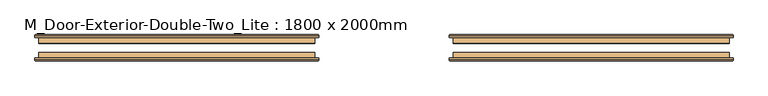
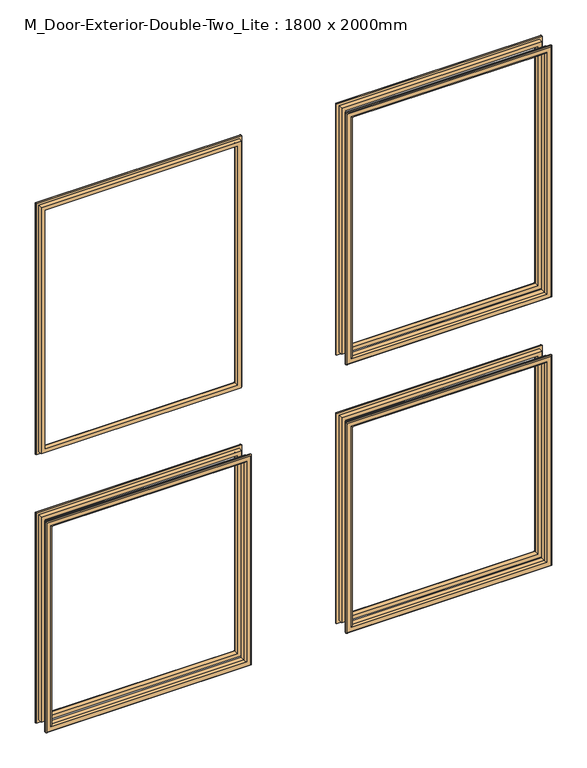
"""IFC4 building model written with IfcOpenShell, lengths in millimetres: door geometry, M_Door-Exterior-Double-Two_Lite : 1800 x 2000mm."""

from ifc_helpers import new_model, si_unit, frame, origin, place, context, project, spatial, ellipse_curve, source, transform, mapped, element, save
from ifc_brep_helpers import plane_surface, cylinder_surface, advanced_brep


def m_door_exterior_double_two_lite_1800_x_2000mm_29a14667(model_context):
    return source(origin(), model_context, "Body", "AdvancedBrep", [
        advanced_brep(
        [(-750.0, 68.85, 900.0), (-750.0, 81.35, 900.0), (-750.0, 81.35, 250.0), (-750.0, 68.85, 250.0), (-738.0, 82.35, 888.0), (-738.0, 68.85, 888.0), (-738.0, 68.85, 262.0), (-738.0, 82.35, 262.0), (-743.0, 87.35, 893.0), (-743.0, 87.35, 257.0), (-758.0, 85.35, 908.0), (-756.0, 87.35, 906.0), (-756.0, 87.35, 244.0), (-758.0, 85.35, 242.0), (-758.0, 81.35, 908.0), (-758.0, 81.35, 242.0), (-150.0, 81.35, 250.0), (-150.0, 68.85, 250.0), (-162.0, 68.85, 262.0), (-162.0, 82.35, 262.0), (-157.0, 87.35, 257.0), (-144.0, 87.35, 244.0), (-142.0, 85.35, 242.0), (-142.0, 81.35, 242.0), (-150.0, 81.35, 900.0), (-150.0, 68.85, 900.0), (-162.0, 68.85, 888.0), (-162.0, 82.35, 888.0), (-157.0, 87.35, 893.0), (-144.0, 87.35, 906.0), (-142.0, 85.35, 908.0), (-142.0, 81.35, 908.0)],
        [
            (0, 1),
            (1, 2),
            (2, 3),
            (3, 0),
            (4, 5),
            (5, 6),
            (6, 7),
            (7, 4),
            (8, 4, ellipse_curve(frame((-743.0, 82.35, 893.0), z_axis=(-0.7071067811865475, 0.0, -0.7071067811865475), x_axis=(-0.7071067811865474, 0.0, 0.7071067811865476)), 7.0710678, 5.0)),
            (7, 9, ellipse_curve(frame((-743.0, 82.35, 257.0), z_axis=(-0.7071067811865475, 0.0, 0.7071067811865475), x_axis=(0.7071067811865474, 0.0, 0.7071067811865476)), 7.0710678, 5.0)),
            (9, 8),
            (10, 11, ellipse_curve(frame((-756.0, 85.35, 906.0), z_axis=(-0.7071067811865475, 0.0, -0.7071067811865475), x_axis=(-0.7071067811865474, 0.0, 0.7071067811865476)), 2.8284271, 2.0)),
            (11, 12),
            (12, 13, ellipse_curve(frame((-756.0, 85.35, 244.0), z_axis=(-0.7071067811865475, 0.0, 0.7071067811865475), x_axis=(0.7071067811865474, 0.0, 0.7071067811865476)), 2.8284271, 2.0)),
            (13, 10),
            (14, 10),
            (13, 15),
            (15, 14),
            (2, 16),
            (16, 17),
            (17, 3),
            (6, 18),
            (18, 19),
            (19, 7),
            (19, 20, ellipse_curve(frame((-157.0, 82.35, 257.0), z_axis=(-0.7071067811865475, 0.0, -0.7071067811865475), x_axis=(-0.7071067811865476, 0.0, 0.7071067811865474)), 7.0710678, 5.0)),
            (20, 9),
            (12, 21),
            (21, 22, ellipse_curve(frame((-144.0, 85.35, 244.0), z_axis=(-0.7071067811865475, 0.0, -0.7071067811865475), x_axis=(-0.7071067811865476, 0.0, 0.7071067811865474)), 2.8284271, 2.0)),
            (22, 13),
            (22, 23),
            (23, 15),
            (16, 24),
            (24, 25),
            (25, 17),
            (18, 26),
            (26, 27),
            (27, 19),
            (27, 28, ellipse_curve(frame((-157.0, 82.35, 893.0), z_axis=(0.7071067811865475, 0.0, -0.7071067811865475), x_axis=(-0.7071067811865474, 0.0, -0.7071067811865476)), 7.0710678, 5.0)),
            (28, 20),
            (21, 29),
            (29, 30, ellipse_curve(frame((-144.0, 85.35, 906.0), z_axis=(0.7071067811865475, 0.0, -0.7071067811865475), x_axis=(-0.7071067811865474, 0.0, -0.7071067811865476)), 2.8284271, 2.0)),
            (30, 22),
            (30, 31),
            (31, 23),
            (31, 14),
            (1, 24),
            (0, 25),
            (5, 26),
            (4, 27),
            (8, 28),
            (11, 29),
            (10, 30),
        ],
        [
            plane_surface(frame((-750.0, 81.35, 900.0), z_axis=(-1.0, 0.0, 0.0), x_axis=(0.0, 0.0, -1.0))),
            plane_surface(frame((-738.0, 68.85, 888.0), z_axis=(1.0, 0.0, 0.0), x_axis=(0.0, 0.0, -1.0))),
            cylinder_surface(frame((-743.0, 82.35, 900.0), z_axis=(0.0, 0.0, 1.0), x_axis=(-1.0, 0.0, 0.0)), 5.0),
            cylinder_surface(frame((-756.0, 85.35, 900.0), z_axis=(0.0, 0.0, 1.0), x_axis=(-1.0, 0.0, 0.0)), 2.0),
            plane_surface(frame((-758.0, 85.35, 908.0), z_axis=(-1.0, 0.0, 0.0), x_axis=(0.0, 0.0, -1.0))),
            plane_surface(frame((-750.0, 81.35, 250.0), z_axis=(0.0, 0.0, -1.0), x_axis=(1.0, 0.0, 0.0))),
            plane_surface(frame((-738.0, 68.85, 262.0), z_axis=(0.0, 0.0, 1.0), x_axis=(1.0, 0.0, 0.0))),
            cylinder_surface(frame((-750.0, 82.35, 257.0), z_axis=(-1.0, 0.0, 0.0), x_axis=(0.0, 0.0, -1.0)), 5.0),
            cylinder_surface(frame((-750.0, 85.35, 244.0), z_axis=(-1.0, 0.0, 0.0), x_axis=(0.0, 0.0, -1.0)), 2.0),
            plane_surface(frame((-758.0, 85.35, 242.0), z_axis=(0.0, 0.0, -1.0), x_axis=(1.0, 0.0, 0.0))),
            plane_surface(frame((-150.0, 81.35, 250.0), z_axis=(1.0, 0.0, 0.0), x_axis=(0.0, 0.0, 1.0))),
            plane_surface(frame((-162.0, 68.85, 262.0), z_axis=(-1.0, 0.0, 0.0), x_axis=(0.0, 0.0, 1.0))),
            cylinder_surface(frame((-157.0, 82.35, 250.0), z_axis=(0.0, 0.0, -1.0), x_axis=(1.0, 0.0, 0.0)), 5.0),
            cylinder_surface(frame((-144.0, 85.35, 250.0), z_axis=(0.0, 0.0, -1.0), x_axis=(1.0, 0.0, 0.0)), 2.0),
            plane_surface(frame((-142.0, 85.35, 242.0), z_axis=(1.0, 0.0, 0.0), x_axis=(0.0, 0.0, 1.0))),
            plane_surface(frame((-142.0, 81.35, 908.0), z_axis=(0.0, -1.0, 0.0), x_axis=(-1.0, 0.0, 0.0))),
            plane_surface(frame((-150.0, 81.35, 900.0), z_axis=(0.0, 0.0, 1.0), x_axis=(-1.0, 0.0, 0.0))),
            plane_surface(frame((-150.0, 68.85, 900.0), z_axis=(0.0, -1.0, 0.0), x_axis=(-1.0, 0.0, 0.0))),
            plane_surface(frame((-162.0, 68.85, 888.0), z_axis=(0.0, 0.0, -1.0), x_axis=(-1.0, 0.0, 0.0))),
            cylinder_surface(frame((-150.0, 82.35, 893.0), z_axis=(1.0, 0.0, 0.0), x_axis=(0.0, 0.0, 1.0)), 5.0),
            plane_surface(frame((-157.0, 87.35, 893.0), z_axis=(0.0, 1.0, 0.0), x_axis=(-1.0, 0.0, 0.0))),
            cylinder_surface(frame((-150.0, 85.35, 906.0), z_axis=(1.0, 0.0, 0.0), x_axis=(0.0, 0.0, 1.0)), 2.0),
            plane_surface(frame((-142.0, 85.35, 908.0), z_axis=(0.0, 0.0, 1.0), x_axis=(-1.0, 0.0, 0.0))),
        ],
        [
            (0, [[1, 2, 3, 4]]),
            (1, [[5, 6, 7, 8]]),
            (2, [[9, -8, 10, 11]]),
            (3, [[12, 13, 14, 15]]),
            (4, [[16, -15, 17, 18]]),
            (5, [[-3, 19, 20, 21]]),
            (6, [[-7, 22, 23, 24]]),
            (7, [[-10, -24, 25, 26]]),
            (8, [[-14, 27, 28, 29]]),
            (9, [[-17, -29, 30, 31]]),
            (10, [[-20, 32, 33, 34]]),
            (11, [[-23, 35, 36, 37]]),
            (12, [[-25, -37, 38, 39]]),
            (13, [[-28, 40, 41, 42]]),
            (14, [[-30, -42, 43, 44]]),
            (15, [[-31, -44, 45, -18], [46, -32, -19, -2]]),
            (16, [[-33, -46, -1, 47]]),
            (17, [[-21, -34, -47, -4], [48, -35, -22, -6]]),
            (18, [[-36, -48, -5, 49]]),
            (19, [[-38, -49, -9, 50]]),
            (20, [[51, -40, -27, -13], [-26, -39, -50, -11]]),
            (21, [[-41, -51, -12, 52]]),
            (22, [[-43, -52, -16, -45]]),
        ],
    ),
        advanced_brep(
        [(150.0, 68.85, 900.0), (150.0, 81.35, 900.0), (150.0, 81.35, 250.0), (150.0, 68.85, 250.0), (162.0, 82.35, 888.0), (162.0, 68.85, 888.0), (162.0, 68.85, 262.0), (162.0, 82.35, 262.0), (157.0, 87.35, 893.0), (157.0, 87.35, 257.0), (142.0, 85.35, 908.0), (144.0, 87.35, 906.0), (144.0, 87.35, 244.0), (142.0, 85.35, 242.0), (142.0, 81.35, 908.0), (142.0, 81.35, 242.0), (750.0, 81.35, 250.0), (750.0, 68.85, 250.0), (738.0, 68.85, 262.0), (738.0, 82.35, 262.0), (743.0, 87.35, 257.0), (756.0, 87.35, 244.0), (758.0, 85.35, 242.0), (758.0, 81.35, 242.0), (750.0, 81.35, 900.0), (750.0, 68.85, 900.0), (738.0, 68.85, 888.0), (738.0, 82.35, 888.0), (743.0, 87.35, 893.0), (756.0, 87.35, 906.0), (758.0, 85.35, 908.0), (758.0, 81.35, 908.0)],
        [
            (0, 1),
            (1, 2),
            (2, 3),
            (3, 0),
            (4, 5),
            (5, 6),
            (6, 7),
            (7, 4),
            (8, 4, ellipse_curve(frame((157.0, 82.35, 893.0), z_axis=(-0.7071067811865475, 0.0, -0.7071067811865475), x_axis=(-0.7071067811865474, 0.0, 0.7071067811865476)), 7.0710678, 5.0)),
            (7, 9, ellipse_curve(frame((157.0, 82.35, 257.0), z_axis=(-0.7071067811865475, 0.0, 0.7071067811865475), x_axis=(0.7071067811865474, 0.0, 0.7071067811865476)), 7.0710678, 5.0)),
            (9, 8),
            (10, 11, ellipse_curve(frame((144.0, 85.35, 906.0), z_axis=(-0.7071067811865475, 0.0, -0.7071067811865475), x_axis=(-0.7071067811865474, 0.0, 0.7071067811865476)), 2.8284271, 2.0)),
            (11, 12),
            (12, 13, ellipse_curve(frame((144.0, 85.35, 244.0), z_axis=(-0.7071067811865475, 0.0, 0.7071067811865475), x_axis=(0.7071067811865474, 0.0, 0.7071067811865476)), 2.8284271, 2.0)),
            (13, 10),
            (14, 10),
            (13, 15),
            (15, 14),
            (2, 16),
            (16, 17),
            (17, 3),
            (6, 18),
            (18, 19),
            (19, 7),
            (19, 20, ellipse_curve(frame((743.0, 82.35, 257.0), z_axis=(-0.7071067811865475, 0.0, -0.7071067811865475), x_axis=(-0.7071067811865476, 0.0, 0.7071067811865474)), 7.0710678, 5.0)),
            (20, 9),
            (12, 21),
            (21, 22, ellipse_curve(frame((756.0, 85.35, 244.0), z_axis=(-0.7071067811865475, 0.0, -0.7071067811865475), x_axis=(-0.7071067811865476, 0.0, 0.7071067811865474)), 2.8284271, 2.0)),
            (22, 13),
            (22, 23),
            (23, 15),
            (16, 24),
            (24, 25),
            (25, 17),
            (18, 26),
            (26, 27),
            (27, 19),
            (27, 28, ellipse_curve(frame((743.0, 82.35, 893.0), z_axis=(0.7071067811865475, 0.0, -0.7071067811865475), x_axis=(-0.7071067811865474, 0.0, -0.7071067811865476)), 7.0710678, 5.0)),
            (28, 20),
            (21, 29),
            (29, 30, ellipse_curve(frame((756.0, 85.35, 906.0), z_axis=(0.7071067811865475, 0.0, -0.7071067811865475), x_axis=(-0.7071067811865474, 0.0, -0.7071067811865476)), 2.8284271, 2.0)),
            (30, 22),
            (30, 31),
            (31, 23),
            (31, 14),
            (1, 24),
            (0, 25),
            (5, 26),
            (4, 27),
            (8, 28),
            (11, 29),
            (10, 30),
        ],
        [
            plane_surface(frame((150.0, 81.35, 900.0), z_axis=(-1.0, 0.0, 0.0), x_axis=(0.0, 0.0, -1.0))),
            plane_surface(frame((162.0, 68.85, 888.0), z_axis=(1.0, 0.0, 0.0), x_axis=(0.0, 0.0, -1.0))),
            cylinder_surface(frame((157.0, 82.35, 900.0), z_axis=(0.0, 0.0, 1.0), x_axis=(-1.0, 0.0, 0.0)), 5.0),
            cylinder_surface(frame((144.0, 85.35, 900.0), z_axis=(0.0, 0.0, 1.0), x_axis=(-1.0, 0.0, 0.0)), 2.0),
            plane_surface(frame((142.0, 85.35, 908.0), z_axis=(-1.0, 0.0, 0.0), x_axis=(0.0, 0.0, -1.0))),
            plane_surface(frame((150.0, 81.35, 250.0), z_axis=(0.0, 0.0, -1.0), x_axis=(1.0, 0.0, 0.0))),
            plane_surface(frame((162.0, 68.85, 262.0), z_axis=(0.0, 0.0, 1.0), x_axis=(1.0, 0.0, 0.0))),
            cylinder_surface(frame((150.0, 82.35, 257.0), z_axis=(-1.0, 0.0, 0.0), x_axis=(0.0, 0.0, -1.0)), 5.0),
            cylinder_surface(frame((150.0, 85.35, 244.0), z_axis=(-1.0, 0.0, 0.0), x_axis=(0.0, 0.0, -1.0)), 2.0),
            plane_surface(frame((142.0, 85.35, 242.0), z_axis=(0.0, 0.0, -1.0), x_axis=(1.0, 0.0, 0.0))),
            plane_surface(frame((750.0, 81.35, 250.0), z_axis=(1.0, 0.0, 0.0), x_axis=(0.0, 0.0, 1.0))),
            plane_surface(frame((738.0, 68.85, 262.0), z_axis=(-1.0, 0.0, 0.0), x_axis=(0.0, 0.0, 1.0))),
            cylinder_surface(frame((743.0, 82.35, 250.0), z_axis=(0.0, 0.0, -1.0), x_axis=(1.0, 0.0, 0.0)), 5.0),
            cylinder_surface(frame((756.0, 85.35, 250.0), z_axis=(0.0, 0.0, -1.0), x_axis=(1.0, 0.0, 0.0)), 2.0),
            plane_surface(frame((758.0, 85.35, 242.0), z_axis=(1.0, 0.0, 0.0), x_axis=(0.0, 0.0, 1.0))),
            plane_surface(frame((758.0, 81.35, 908.0), z_axis=(0.0, -1.0, 0.0), x_axis=(-1.0, 0.0, 0.0))),
            plane_surface(frame((750.0, 81.35, 900.0), z_axis=(0.0, 0.0, 1.0), x_axis=(-1.0, 0.0, 0.0))),
            plane_surface(frame((750.0, 68.85, 900.0), z_axis=(0.0, -1.0, 0.0), x_axis=(-1.0, 0.0, 0.0))),
            plane_surface(frame((738.0, 68.85, 888.0), z_axis=(0.0, 0.0, -1.0), x_axis=(-1.0, 0.0, 0.0))),
            cylinder_surface(frame((750.0, 82.35, 893.0), z_axis=(1.0, 0.0, 0.0), x_axis=(0.0, 0.0, 1.0)), 5.0),
            plane_surface(frame((743.0, 87.35, 893.0), z_axis=(0.0, 1.0, 0.0), x_axis=(-1.0, 0.0, 0.0))),
            cylinder_surface(frame((750.0, 85.35, 906.0), z_axis=(1.0, 0.0, 0.0), x_axis=(0.0, 0.0, 1.0)), 2.0),
            plane_surface(frame((758.0, 85.35, 908.0), z_axis=(0.0, 0.0, 1.0), x_axis=(-1.0, 0.0, 0.0))),
        ],
        [
            (0, [[1, 2, 3, 4]]),
            (1, [[5, 6, 7, 8]]),
            (2, [[9, -8, 10, 11]]),
            (3, [[12, 13, 14, 15]]),
            (4, [[16, -15, 17, 18]]),
            (5, [[-3, 19, 20, 21]]),
            (6, [[-7, 22, 23, 24]]),
            (7, [[-10, -24, 25, 26]]),
            (8, [[-14, 27, 28, 29]]),
            (9, [[-17, -29, 30, 31]]),
            (10, [[-20, 32, 33, 34]]),
            (11, [[-23, 35, 36, 37]]),
            (12, [[-25, -37, 38, 39]]),
            (13, [[-28, 40, 41, 42]]),
            (14, [[-30, -42, 43, 44]]),
            (15, [[-31, -44, 45, -18], [46, -32, -19, -2]]),
            (16, [[-33, -46, -1, 47]]),
            (17, [[-21, -34, -47, -4], [48, -35, -22, -6]]),
            (18, [[-36, -48, -5, 49]]),
            (19, [[-38, -49, -9, 50]]),
            (20, [[51, -40, -27, -13], [-26, -39, -50, -11]]),
            (21, [[-41, -51, -12, 52]]),
            (22, [[-43, -52, -16, -45]]),
        ],
    ),
        advanced_brep(
        [(150.0, 68.85, 1880.0), (150.0, 81.35, 1880.0), (150.0, 81.35, 1100.0), (150.0, 68.85, 1100.0), (162.0, 82.35, 1868.0), (162.0, 68.85, 1868.0), (162.0, 68.85, 1112.0), (162.0, 82.35, 1112.0), (157.0, 87.35, 1873.0), (157.0, 87.35, 1107.0), (142.0, 85.35, 1888.0), (144.0, 87.35, 1886.0), (144.0, 87.35, 1094.0), (142.0, 85.35, 1092.0), (142.0, 81.35, 1888.0), (142.0, 81.35, 1092.0), (750.0, 81.35, 1100.0), (750.0, 68.85, 1100.0), (738.0, 68.85, 1112.0), (738.0, 82.35, 1112.0), (743.0, 87.35, 1107.0), (756.0, 87.35, 1094.0), (758.0, 85.35, 1092.0), (758.0, 81.35, 1092.0), (750.0, 81.35, 1880.0), (750.0, 68.85, 1880.0), (738.0, 68.85, 1868.0), (738.0, 82.35, 1868.0), (743.0, 87.35, 1873.0), (756.0, 87.35, 1886.0), (758.0, 85.35, 1888.0), (758.0, 81.35, 1888.0)],
        [
            (0, 1),
            (1, 2),
            (2, 3),
            (3, 0),
            (4, 5),
            (5, 6),
            (6, 7),
            (7, 4),
            (8, 4, ellipse_curve(frame((157.0, 82.35, 1873.0), z_axis=(-0.7071067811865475, 0.0, -0.7071067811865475), x_axis=(-0.7071067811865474, 0.0, 0.7071067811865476)), 7.0710678, 5.0)),
            (7, 9, ellipse_curve(frame((157.0, 82.35, 1107.0), z_axis=(-0.7071067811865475, 0.0, 0.7071067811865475), x_axis=(0.7071067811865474, 0.0, 0.7071067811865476)), 7.0710678, 5.0)),
            (9, 8),
            (10, 11, ellipse_curve(frame((144.0, 85.35, 1886.0), z_axis=(-0.7071067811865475, 0.0, -0.7071067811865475), x_axis=(-0.7071067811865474, 0.0, 0.7071067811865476)), 2.8284271, 2.0)),
            (11, 12),
            (12, 13, ellipse_curve(frame((144.0, 85.35, 1094.0), z_axis=(-0.7071067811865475, 0.0, 0.7071067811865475), x_axis=(0.7071067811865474, 0.0, 0.7071067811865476)), 2.8284271, 2.0)),
            (13, 10),
            (14, 10),
            (13, 15),
            (15, 14),
            (2, 16),
            (16, 17),
            (17, 3),
            (6, 18),
            (18, 19),
            (19, 7),
            (19, 20, ellipse_curve(frame((743.0, 82.35, 1107.0), z_axis=(-0.7071067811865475, 0.0, -0.7071067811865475), x_axis=(-0.7071067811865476, 0.0, 0.7071067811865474)), 7.0710678, 5.0)),
            (20, 9),
            (12, 21),
            (21, 22, ellipse_curve(frame((756.0, 85.35, 1094.0), z_axis=(-0.7071067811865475, 0.0, -0.7071067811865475), x_axis=(-0.7071067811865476, 0.0, 0.7071067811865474)), 2.8284271, 2.0)),
            (22, 13),
            (22, 23),
            (23, 15),
            (16, 24),
            (24, 25),
            (25, 17),
            (18, 26),
            (26, 27),
            (27, 19),
            (27, 28, ellipse_curve(frame((743.0, 82.35, 1873.0), z_axis=(0.7071067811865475, 0.0, -0.7071067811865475), x_axis=(-0.7071067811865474, 0.0, -0.7071067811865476)), 7.0710678, 5.0)),
            (28, 20),
            (21, 29),
            (29, 30, ellipse_curve(frame((756.0, 85.35, 1886.0), z_axis=(0.7071067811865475, 0.0, -0.7071067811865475), x_axis=(-0.7071067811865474, 0.0, -0.7071067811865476)), 2.8284271, 2.0)),
            (30, 22),
            (30, 31),
            (31, 23),
            (31, 14),
            (1, 24),
            (0, 25),
            (5, 26),
            (4, 27),
            (8, 28),
            (11, 29),
            (10, 30),
        ],
        [
            plane_surface(frame((150.0, 81.35, 1880.0), z_axis=(-1.0, 0.0, 0.0), x_axis=(0.0, 0.0, -1.0))),
            plane_surface(frame((162.0, 68.85, 1868.0), z_axis=(1.0, 0.0, 0.0), x_axis=(0.0, 0.0, -1.0))),
            cylinder_surface(frame((157.0, 82.35, 1880.0), z_axis=(0.0, 0.0, 1.0), x_axis=(-1.0, 0.0, 0.0)), 5.0),
            cylinder_surface(frame((144.0, 85.35, 1880.0), z_axis=(0.0, 0.0, 1.0), x_axis=(-1.0, 0.0, 0.0)), 2.0),
            plane_surface(frame((142.0, 85.35, 1888.0), z_axis=(-1.0, 0.0, 0.0), x_axis=(0.0, 0.0, -1.0))),
            plane_surface(frame((150.0, 81.35, 1100.0), z_axis=(0.0, 0.0, -1.0), x_axis=(1.0, 0.0, 0.0))),
            plane_surface(frame((162.0, 68.85, 1112.0), z_axis=(0.0, 0.0, 1.0), x_axis=(1.0, 0.0, 0.0))),
            cylinder_surface(frame((150.0, 82.35, 1107.0), z_axis=(-1.0, 0.0, 0.0), x_axis=(0.0, 0.0, -1.0)), 5.0),
            cylinder_surface(frame((150.0, 85.35, 1094.0), z_axis=(-1.0, 0.0, 0.0), x_axis=(0.0, 0.0, -1.0)), 2.0),
            plane_surface(frame((142.0, 85.35, 1092.0), z_axis=(0.0, 0.0, -1.0), x_axis=(1.0, 0.0, 0.0))),
            plane_surface(frame((750.0, 81.35, 1100.0), z_axis=(1.0, 0.0, 0.0), x_axis=(0.0, 0.0, 1.0))),
            plane_surface(frame((738.0, 68.85, 1112.0), z_axis=(-1.0, 0.0, 0.0), x_axis=(0.0, 0.0, 1.0))),
            cylinder_surface(frame((743.0, 82.35, 1100.0), z_axis=(0.0, 0.0, -1.0), x_axis=(1.0, 0.0, 0.0)), 5.0),
            cylinder_surface(frame((756.0, 85.35, 1100.0), z_axis=(0.0, 0.0, -1.0), x_axis=(1.0, 0.0, 0.0)), 2.0),
            plane_surface(frame((758.0, 85.35, 1092.0), z_axis=(1.0, 0.0, 0.0), x_axis=(0.0, 0.0, 1.0))),
            plane_surface(frame((758.0, 81.35, 1888.0), z_axis=(0.0, -1.0, 0.0), x_axis=(-1.0, 0.0, 0.0))),
            plane_surface(frame((750.0, 81.35, 1880.0), z_axis=(0.0, 0.0, 1.0), x_axis=(-1.0, 0.0, 0.0))),
            plane_surface(frame((750.0, 68.85, 1880.0), z_axis=(0.0, -1.0, 0.0), x_axis=(-1.0, 0.0, 0.0))),
            plane_surface(frame((738.0, 68.85, 1868.0), z_axis=(0.0, 0.0, -1.0), x_axis=(-1.0, 0.0, 0.0))),
            cylinder_surface(frame((750.0, 82.35, 1873.0), z_axis=(1.0, 0.0, 0.0), x_axis=(0.0, 0.0, 1.0)), 5.0),
            plane_surface(frame((743.0, 87.35, 1873.0), z_axis=(0.0, 1.0, 0.0), x_axis=(-1.0, 0.0, 0.0))),
            cylinder_surface(frame((750.0, 85.35, 1886.0), z_axis=(1.0, 0.0, 0.0), x_axis=(0.0, 0.0, 1.0)), 2.0),
            plane_surface(frame((758.0, 85.35, 1888.0), z_axis=(0.0, 0.0, 1.0), x_axis=(-1.0, 0.0, 0.0))),
        ],
        [
            (0, [[1, 2, 3, 4]]),
            (1, [[5, 6, 7, 8]]),
            (2, [[9, -8, 10, 11]]),
            (3, [[12, 13, 14, 15]]),
            (4, [[16, -15, 17, 18]]),
            (5, [[-3, 19, 20, 21]]),
            (6, [[-7, 22, 23, 24]]),
            (7, [[-10, -24, 25, 26]]),
            (8, [[-14, 27, 28, 29]]),
            (9, [[-17, -29, 30, 31]]),
            (10, [[-20, 32, 33, 34]]),
            (11, [[-23, 35, 36, 37]]),
            (12, [[-25, -37, 38, 39]]),
            (13, [[-28, 40, 41, 42]]),
            (14, [[-30, -42, 43, 44]]),
            (15, [[-31, -44, 45, -18], [46, -32, -19, -2]]),
            (16, [[-33, -46, -1, 47]]),
            (17, [[-21, -34, -47, -4], [48, -35, -22, -6]]),
            (18, [[-36, -48, -5, 49]]),
            (19, [[-38, -49, -9, 50]]),
            (20, [[51, -40, -27, -13], [-26, -39, -50, -11]]),
            (21, [[-41, -51, -12, 52]]),
            (22, [[-43, -52, -16, -45]]),
        ],
    ),
        advanced_brep(
        [(-750.0, 68.85, 1880.0), (-750.0, 81.35, 1880.0), (-750.0, 81.35, 1100.0), (-750.0, 68.85, 1100.0), (-738.0, 82.35, 1868.0), (-738.0, 68.85, 1868.0), (-738.0, 68.85, 1112.0), (-738.0, 82.35, 1112.0), (-743.0, 87.35, 1873.0), (-743.0, 87.35, 1107.0), (-758.0, 85.35, 1888.0), (-756.0, 87.35, 1886.0), (-756.0, 87.35, 1094.0), (-758.0, 85.35, 1092.0), (-758.0, 81.35, 1888.0), (-758.0, 81.35, 1092.0), (-150.0, 81.35, 1100.0), (-150.0, 68.85, 1100.0), (-162.0, 68.85, 1112.0), (-162.0, 82.35, 1112.0), (-157.0, 87.35, 1107.0), (-144.0, 87.35, 1094.0), (-142.0, 85.35, 1092.0), (-142.0, 81.35, 1092.0), (-150.0, 81.35, 1880.0), (-150.0, 68.85, 1880.0), (-162.0, 68.85, 1868.0), (-162.0, 82.35, 1868.0), (-157.0, 87.35, 1873.0), (-144.0, 87.35, 1886.0), (-142.0, 85.35, 1888.0), (-142.0, 81.35, 1888.0)],
        [
            (0, 1),
            (1, 2),
            (2, 3),
            (3, 0),
            (4, 5),
            (5, 6),
            (6, 7),
            (7, 4),
            (8, 4, ellipse_curve(frame((-743.0, 82.35, 1873.0), z_axis=(-0.7071067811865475, 0.0, -0.7071067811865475), x_axis=(-0.7071067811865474, 0.0, 0.7071067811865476)), 7.0710678, 5.0)),
            (7, 9, ellipse_curve(frame((-743.0, 82.35, 1107.0), z_axis=(-0.7071067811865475, 0.0, 0.7071067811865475), x_axis=(0.7071067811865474, 0.0, 0.7071067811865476)), 7.0710678, 5.0)),
            (9, 8),
            (10, 11, ellipse_curve(frame((-756.0, 85.35, 1886.0), z_axis=(-0.7071067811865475, 0.0, -0.7071067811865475), x_axis=(-0.7071067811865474, 0.0, 0.7071067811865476)), 2.8284271, 2.0)),
            (11, 12),
            (12, 13, ellipse_curve(frame((-756.0, 85.35, 1094.0), z_axis=(-0.7071067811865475, 0.0, 0.7071067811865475), x_axis=(0.7071067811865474, 0.0, 0.7071067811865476)), 2.8284271, 2.0)),
            (13, 10),
            (14, 10),
            (13, 15),
            (15, 14),
            (2, 16),
            (16, 17),
            (17, 3),
            (6, 18),
            (18, 19),
            (19, 7),
            (19, 20, ellipse_curve(frame((-157.0, 82.35, 1107.0), z_axis=(-0.7071067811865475, 0.0, -0.7071067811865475), x_axis=(-0.7071067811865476, 0.0, 0.7071067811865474)), 7.0710678, 5.0)),
            (20, 9),
            (12, 21),
            (21, 22, ellipse_curve(frame((-144.0, 85.35, 1094.0), z_axis=(-0.7071067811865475, 0.0, -0.7071067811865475), x_axis=(-0.7071067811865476, 0.0, 0.7071067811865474)), 2.8284271, 2.0)),
            (22, 13),
            (22, 23),
            (23, 15),
            (16, 24),
            (24, 25),
            (25, 17),
            (18, 26),
            (26, 27),
            (27, 19),
            (27, 28, ellipse_curve(frame((-157.0, 82.35, 1873.0), z_axis=(0.7071067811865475, 0.0, -0.7071067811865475), x_axis=(-0.7071067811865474, 0.0, -0.7071067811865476)), 7.0710678, 5.0)),
            (28, 20),
            (21, 29),
            (29, 30, ellipse_curve(frame((-144.0, 85.35, 1886.0), z_axis=(0.7071067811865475, 0.0, -0.7071067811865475), x_axis=(-0.7071067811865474, 0.0, -0.7071067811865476)), 2.8284271, 2.0)),
            (30, 22),
            (30, 31),
            (31, 23),
            (31, 14),
            (1, 24),
            (0, 25),
            (5, 26),
            (4, 27),
            (8, 28),
            (11, 29),
            (10, 30),
        ],
        [
            plane_surface(frame((-750.0, 81.35, 1880.0), z_axis=(-1.0, 0.0, 0.0), x_axis=(0.0, 0.0, -1.0))),
            plane_surface(frame((-738.0, 68.85, 1868.0), z_axis=(1.0, 0.0, 0.0), x_axis=(0.0, 0.0, -1.0))),
            cylinder_surface(frame((-743.0, 82.35, 1880.0), z_axis=(0.0, 0.0, 1.0), x_axis=(-1.0, 0.0, 0.0)), 5.0),
            cylinder_surface(frame((-756.0, 85.35, 1880.0), z_axis=(0.0, 0.0, 1.0), x_axis=(-1.0, 0.0, 0.0)), 2.0),
            plane_surface(frame((-758.0, 85.35, 1888.0), z_axis=(-1.0, 0.0, 0.0), x_axis=(0.0, 0.0, -1.0))),
            plane_surface(frame((-750.0, 81.35, 1100.0), z_axis=(0.0, 0.0, -1.0), x_axis=(1.0, 0.0, 0.0))),
            plane_surface(frame((-738.0, 68.85, 1112.0), z_axis=(0.0, 0.0, 1.0), x_axis=(1.0, 0.0, 0.0))),
            cylinder_surface(frame((-750.0, 82.35, 1107.0), z_axis=(-1.0, 0.0, 0.0), x_axis=(0.0, 0.0, -1.0)), 5.0),
            cylinder_surface(frame((-750.0, 85.35, 1094.0), z_axis=(-1.0, 0.0, 0.0), x_axis=(0.0, 0.0, -1.0)), 2.0),
            plane_surface(frame((-758.0, 85.35, 1092.0), z_axis=(0.0, 0.0, -1.0), x_axis=(1.0, 0.0, 0.0))),
            plane_surface(frame((-150.0, 81.35, 1100.0), z_axis=(1.0, 0.0, 0.0), x_axis=(0.0, 0.0, 1.0))),
            plane_surface(frame((-162.0, 68.85, 1112.0), z_axis=(-1.0, 0.0, 0.0), x_axis=(0.0, 0.0, 1.0))),
            cylinder_surface(frame((-157.0, 82.35, 1100.0), z_axis=(0.0, 0.0, -1.0), x_axis=(1.0, 0.0, 0.0)), 5.0),
            cylinder_surface(frame((-144.0, 85.35, 1100.0), z_axis=(0.0, 0.0, -1.0), x_axis=(1.0, 0.0, 0.0)), 2.0),
            plane_surface(frame((-142.0, 85.35, 1092.0), z_axis=(1.0, 0.0, 0.0), x_axis=(0.0, 0.0, 1.0))),
            plane_surface(frame((-142.0, 81.35, 1888.0), z_axis=(0.0, -1.0, 0.0), x_axis=(-1.0, 0.0, 0.0))),
            plane_surface(frame((-150.0, 81.35, 1880.0), z_axis=(0.0, 0.0, 1.0), x_axis=(-1.0, 0.0, 0.0))),
            plane_surface(frame((-150.0, 68.85, 1880.0), z_axis=(0.0, -1.0, 0.0), x_axis=(-1.0, 0.0, 0.0))),
            plane_surface(frame((-162.0, 68.85, 1868.0), z_axis=(0.0, 0.0, -1.0), x_axis=(-1.0, 0.0, 0.0))),
            cylinder_surface(frame((-150.0, 82.35, 1873.0), z_axis=(1.0, 0.0, 0.0), x_axis=(0.0, 0.0, 1.0)), 5.0),
            plane_surface(frame((-157.0, 87.35, 1873.0), z_axis=(0.0, 1.0, 0.0), x_axis=(-1.0, 0.0, 0.0))),
            cylinder_surface(frame((-150.0, 85.35, 1886.0), z_axis=(1.0, 0.0, 0.0), x_axis=(0.0, 0.0, 1.0)), 2.0),
            plane_surface(frame((-142.0, 85.35, 1888.0), z_axis=(0.0, 0.0, 1.0), x_axis=(-1.0, 0.0, 0.0))),
        ],
        [
            (0, [[1, 2, 3, 4]]),
            (1, [[5, 6, 7, 8]]),
            (2, [[9, -8, 10, 11]]),
            (3, [[12, 13, 14, 15]]),
            (4, [[16, -15, 17, 18]]),
            (5, [[-3, 19, 20, 21]]),
            (6, [[-7, 22, 23, 24]]),
            (7, [[-10, -24, 25, 26]]),
            (8, [[-14, 27, 28, 29]]),
            (9, [[-17, -29, 30, 31]]),
            (10, [[-20, 32, 33, 34]]),
            (11, [[-23, 35, 36, 37]]),
            (12, [[-25, -37, 38, 39]]),
            (13, [[-28, 40, 41, 42]]),
            (14, [[-30, -42, 43, 44]]),
            (15, [[-31, -44, 45, -18], [46, -32, -19, -2]]),
            (16, [[-33, -46, -1, 47]]),
            (17, [[-21, -34, -47, -4], [48, -35, -22, -6]]),
            (18, [[-36, -48, -5, 49]]),
            (19, [[-38, -49, -9, 50]]),
            (20, [[51, -40, -27, -13], [-26, -39, -50, -11]]),
            (21, [[-41, -51, -12, 52]]),
            (22, [[-43, -52, -16, -45]]),
        ],
    ),
        advanced_brep(
        [(-750.0, 48.85, 250.0), (-750.0, 36.35, 250.0), (-750.0, 36.35, 900.0), (-750.0, 48.85, 900.0), (-738.0, 35.35, 262.0), (-738.0, 48.85, 262.0), (-738.0, 48.85, 888.0), (-738.0, 35.35, 888.0), (-743.0, 30.35, 257.0), (-743.0, 30.35, 893.0), (-758.0, 32.35, 242.0), (-756.0, 30.35, 244.0), (-756.0, 30.35, 906.0), (-758.0, 32.35, 908.0), (-758.0, 36.35, 242.0), (-758.0, 36.35, 908.0), (-150.0, 36.35, 900.0), (-150.0, 48.85, 900.0), (-162.0, 48.85, 888.0), (-162.0, 35.35, 888.0), (-157.0, 30.35, 893.0), (-144.0, 30.35, 906.0), (-142.0, 32.35, 908.0), (-142.0, 36.35, 908.0), (-150.0, 36.35, 250.0), (-150.0, 48.85, 250.0), (-162.0, 48.85, 262.0), (-162.0, 35.35, 262.0), (-157.0, 30.35, 257.0), (-144.0, 30.35, 244.0), (-142.0, 32.35, 242.0), (-142.0, 36.35, 242.0)],
        [
            (0, 1),
            (1, 2),
            (2, 3),
            (3, 0),
            (4, 5),
            (5, 6),
            (6, 7),
            (7, 4),
            (8, 4, ellipse_curve(frame((-743.0, 35.35, 257.0), z_axis=(-0.7071067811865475, 0.0, 0.7071067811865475), x_axis=(-0.7071067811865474, 0.0, -0.7071067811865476)), 7.0710678, 5.0)),
            (7, 9, ellipse_curve(frame((-743.0, 35.35, 893.0), z_axis=(-0.7071067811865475, 0.0, -0.7071067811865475), x_axis=(0.7071067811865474, 0.0, -0.7071067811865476)), 7.0710678, 5.0)),
            (9, 8),
            (10, 11, ellipse_curve(frame((-756.0, 32.35, 244.0), z_axis=(-0.7071067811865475, 0.0, 0.7071067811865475), x_axis=(-0.7071067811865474, 0.0, -0.7071067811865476)), 2.8284271, 2.0)),
            (11, 12),
            (12, 13, ellipse_curve(frame((-756.0, 32.35, 906.0), z_axis=(-0.7071067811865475, 0.0, -0.7071067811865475), x_axis=(0.7071067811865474, 0.0, -0.7071067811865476)), 2.8284271, 2.0)),
            (13, 10),
            (14, 10),
            (13, 15),
            (15, 14),
            (2, 16),
            (16, 17),
            (17, 3),
            (6, 18),
            (18, 19),
            (19, 7),
            (19, 20, ellipse_curve(frame((-157.0, 35.35, 893.0), z_axis=(-0.7071067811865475, 0.0, 0.7071067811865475), x_axis=(-0.7071067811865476, 0.0, -0.7071067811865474)), 7.0710678, 5.0)),
            (20, 9),
            (12, 21),
            (21, 22, ellipse_curve(frame((-144.0, 32.35, 906.0), z_axis=(-0.7071067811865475, 0.0, 0.7071067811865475), x_axis=(-0.7071067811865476, 0.0, -0.7071067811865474)), 2.8284271, 2.0)),
            (22, 13),
            (22, 23),
            (23, 15),
            (16, 24),
            (24, 25),
            (25, 17),
            (18, 26),
            (26, 27),
            (27, 19),
            (27, 28, ellipse_curve(frame((-157.0, 35.35, 257.0), z_axis=(0.7071067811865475, 0.0, 0.7071067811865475), x_axis=(-0.7071067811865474, 0.0, 0.7071067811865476)), 7.0710678, 5.0)),
            (28, 20),
            (21, 29),
            (29, 30, ellipse_curve(frame((-144.0, 32.35, 244.0), z_axis=(0.7071067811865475, 0.0, 0.7071067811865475), x_axis=(-0.7071067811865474, 0.0, 0.7071067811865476)), 2.8284271, 2.0)),
            (30, 22),
            (30, 31),
            (31, 23),
            (31, 14),
            (1, 24),
            (0, 25),
            (5, 26),
            (4, 27),
            (8, 28),
            (11, 29),
            (10, 30),
        ],
        [
            plane_surface(frame((-750.0, 36.35, 250.0), z_axis=(-1.0, 0.0, 0.0), x_axis=(0.0, 0.0, 1.0))),
            plane_surface(frame((-738.0, 48.85, 262.0), z_axis=(1.0, 0.0, 0.0), x_axis=(0.0, 0.0, 1.0))),
            cylinder_surface(frame((-743.0, 35.35, 250.0), z_axis=(0.0, 0.0, -1.0), x_axis=(-1.0, 0.0, 0.0)), 5.0),
            cylinder_surface(frame((-756.0, 32.35, 250.0), z_axis=(0.0, 0.0, -1.0), x_axis=(-1.0, 0.0, 0.0)), 2.0),
            plane_surface(frame((-758.0, 32.35, 242.0), z_axis=(-1.0, 0.0, 0.0), x_axis=(0.0, 0.0, 1.0))),
            plane_surface(frame((-750.0, 36.35, 900.0), z_axis=(0.0, 0.0, 1.0), x_axis=(1.0, 0.0, 0.0))),
            plane_surface(frame((-738.0, 48.85, 888.0), z_axis=(0.0, 0.0, -1.0), x_axis=(1.0, 0.0, 0.0))),
            cylinder_surface(frame((-750.0, 35.35, 893.0), z_axis=(-1.0, 0.0, 0.0), x_axis=(0.0, 0.0, 1.0)), 5.0),
            cylinder_surface(frame((-750.0, 32.35, 906.0), z_axis=(-1.0, 0.0, 0.0), x_axis=(0.0, 0.0, 1.0)), 2.0),
            plane_surface(frame((-758.0, 32.35, 908.0), z_axis=(0.0, 0.0, 1.0), x_axis=(1.0, 0.0, 0.0))),
            plane_surface(frame((-150.0, 36.35, 900.0), z_axis=(1.0, 0.0, 0.0), x_axis=(0.0, 0.0, -1.0))),
            plane_surface(frame((-162.0, 48.85, 888.0), z_axis=(-1.0, 0.0, 0.0), x_axis=(0.0, 0.0, -1.0))),
            cylinder_surface(frame((-157.0, 35.35, 900.0), z_axis=(0.0, 0.0, 1.0), x_axis=(1.0, 0.0, 0.0)), 5.0),
            cylinder_surface(frame((-144.0, 32.35, 900.0), z_axis=(0.0, 0.0, 1.0), x_axis=(1.0, 0.0, 0.0)), 2.0),
            plane_surface(frame((-142.0, 32.35, 908.0), z_axis=(1.0, 0.0, 0.0), x_axis=(0.0, 0.0, -1.0))),
            plane_surface(frame((-142.0, 36.35, 242.0), z_axis=(0.0, 1.0, 0.0), x_axis=(-1.0, 0.0, 0.0))),
            plane_surface(frame((-150.0, 36.35, 250.0), z_axis=(0.0, 0.0, -1.0), x_axis=(-1.0, 0.0, 0.0))),
            plane_surface(frame((-150.0, 48.85, 250.0), z_axis=(0.0, 1.0, 0.0), x_axis=(-1.0, 0.0, 0.0))),
            plane_surface(frame((-162.0, 48.85, 262.0), z_axis=(0.0, 0.0, 1.0), x_axis=(-1.0, 0.0, 0.0))),
            cylinder_surface(frame((-150.0, 35.35, 257.0), z_axis=(1.0, 0.0, 0.0), x_axis=(0.0, 0.0, -1.0)), 5.0),
            plane_surface(frame((-157.0, 30.35, 257.0), z_axis=(0.0, -1.0, 0.0), x_axis=(-1.0, 0.0, 0.0))),
            cylinder_surface(frame((-150.0, 32.35, 244.0), z_axis=(1.0, 0.0, 0.0), x_axis=(0.0, 0.0, -1.0)), 2.0),
            plane_surface(frame((-142.0, 32.35, 242.0), z_axis=(0.0, 0.0, -1.0), x_axis=(-1.0, 0.0, 0.0))),
        ],
        [
            (0, [[1, 2, 3, 4]]),
            (1, [[5, 6, 7, 8]]),
            (2, [[9, -8, 10, 11]]),
            (3, [[12, 13, 14, 15]]),
            (4, [[16, -15, 17, 18]]),
            (5, [[-3, 19, 20, 21]]),
            (6, [[-7, 22, 23, 24]]),
            (7, [[-10, -24, 25, 26]]),
            (8, [[-14, 27, 28, 29]]),
            (9, [[-17, -29, 30, 31]]),
            (10, [[-20, 32, 33, 34]]),
            (11, [[-23, 35, 36, 37]]),
            (12, [[-25, -37, 38, 39]]),
            (13, [[-28, 40, 41, 42]]),
            (14, [[-30, -42, 43, 44]]),
            (15, [[-31, -44, 45, -18], [46, -32, -19, -2]]),
            (16, [[-33, -46, -1, 47]]),
            (17, [[-21, -34, -47, -4], [48, -35, -22, -6]]),
            (18, [[-36, -48, -5, 49]]),
            (19, [[-38, -49, -9, 50]]),
            (20, [[51, -40, -27, -13], [-26, -39, -50, -11]]),
            (21, [[-41, -51, -12, 52]]),
            (22, [[-43, -52, -16, -45]]),
        ],
    ),
        advanced_brep(
        [(150.0, 48.85, 250.0), (150.0, 36.35, 250.0), (150.0, 36.35, 900.0), (150.0, 48.85, 900.0), (162.0, 35.35, 262.0), (162.0, 48.85, 262.0), (162.0, 48.85, 888.0), (162.0, 35.35, 888.0), (157.0, 30.35, 257.0), (157.0, 30.35, 893.0), (142.0, 32.35, 242.0), (144.0, 30.35, 244.0), (144.0, 30.35, 906.0), (142.0, 32.35, 908.0), (142.0, 36.35, 242.0), (142.0, 36.35, 908.0), (750.0, 36.35, 900.0), (750.0, 48.85, 900.0), (738.0, 48.85, 888.0), (738.0, 35.35, 888.0), (743.0, 30.35, 893.0), (756.0, 30.35, 906.0), (758.0, 32.35, 908.0), (758.0, 36.35, 908.0), (750.0, 36.35, 250.0), (750.0, 48.85, 250.0), (738.0, 48.85, 262.0), (738.0, 35.35, 262.0), (743.0, 30.35, 257.0), (756.0, 30.35, 244.0), (758.0, 32.35, 242.0), (758.0, 36.35, 242.0)],
        [
            (0, 1),
            (1, 2),
            (2, 3),
            (3, 0),
            (4, 5),
            (5, 6),
            (6, 7),
            (7, 4),
            (8, 4, ellipse_curve(frame((157.0, 35.35, 257.0), z_axis=(-0.7071067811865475, 0.0, 0.7071067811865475), x_axis=(-0.7071067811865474, 0.0, -0.7071067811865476)), 7.0710678, 5.0)),
            (7, 9, ellipse_curve(frame((157.0, 35.35, 893.0), z_axis=(-0.7071067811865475, 0.0, -0.7071067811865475), x_axis=(0.7071067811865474, 0.0, -0.7071067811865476)), 7.0710678, 5.0)),
            (9, 8),
            (10, 11, ellipse_curve(frame((144.0, 32.35, 244.0), z_axis=(-0.7071067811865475, 0.0, 0.7071067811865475), x_axis=(-0.7071067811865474, 0.0, -0.7071067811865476)), 2.8284271, 2.0)),
            (11, 12),
            (12, 13, ellipse_curve(frame((144.0, 32.35, 906.0), z_axis=(-0.7071067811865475, 0.0, -0.7071067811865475), x_axis=(0.7071067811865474, 0.0, -0.7071067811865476)), 2.8284271, 2.0)),
            (13, 10),
            (14, 10),
            (13, 15),
            (15, 14),
            (2, 16),
            (16, 17),
            (17, 3),
            (6, 18),
            (18, 19),
            (19, 7),
            (19, 20, ellipse_curve(frame((743.0, 35.35, 893.0), z_axis=(-0.7071067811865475, 0.0, 0.7071067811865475), x_axis=(-0.7071067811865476, 0.0, -0.7071067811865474)), 7.0710678, 5.0)),
            (20, 9),
            (12, 21),
            (21, 22, ellipse_curve(frame((756.0, 32.35, 906.0), z_axis=(-0.7071067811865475, 0.0, 0.7071067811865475), x_axis=(-0.7071067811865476, 0.0, -0.7071067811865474)), 2.8284271, 2.0)),
            (22, 13),
            (22, 23),
            (23, 15),
            (16, 24),
            (24, 25),
            (25, 17),
            (18, 26),
            (26, 27),
            (27, 19),
            (27, 28, ellipse_curve(frame((743.0, 35.35, 257.0), z_axis=(0.7071067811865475, 0.0, 0.7071067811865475), x_axis=(-0.7071067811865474, 0.0, 0.7071067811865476)), 7.0710678, 5.0)),
            (28, 20),
            (21, 29),
            (29, 30, ellipse_curve(frame((756.0, 32.35, 244.0), z_axis=(0.7071067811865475, 0.0, 0.7071067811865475), x_axis=(-0.7071067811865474, 0.0, 0.7071067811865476)), 2.8284271, 2.0)),
            (30, 22),
            (30, 31),
            (31, 23),
            (31, 14),
            (1, 24),
            (0, 25),
            (5, 26),
            (4, 27),
            (8, 28),
            (11, 29),
            (10, 30),
        ],
        [
            plane_surface(frame((150.0, 36.35, 250.0), z_axis=(-1.0, 0.0, 0.0), x_axis=(0.0, 0.0, 1.0))),
            plane_surface(frame((162.0, 48.85, 262.0), z_axis=(1.0, 0.0, 0.0), x_axis=(0.0, 0.0, 1.0))),
            cylinder_surface(frame((157.0, 35.35, 250.0), z_axis=(0.0, 0.0, -1.0), x_axis=(-1.0, 0.0, 0.0)), 5.0),
            cylinder_surface(frame((144.0, 32.35, 250.0), z_axis=(0.0, 0.0, -1.0), x_axis=(-1.0, 0.0, 0.0)), 2.0),
            plane_surface(frame((142.0, 32.35, 242.0), z_axis=(-1.0, 0.0, 0.0), x_axis=(0.0, 0.0, 1.0))),
            plane_surface(frame((150.0, 36.35, 900.0), z_axis=(0.0, 0.0, 1.0), x_axis=(1.0, 0.0, 0.0))),
            plane_surface(frame((162.0, 48.85, 888.0), z_axis=(0.0, 0.0, -1.0), x_axis=(1.0, 0.0, 0.0))),
            cylinder_surface(frame((150.0, 35.35, 893.0), z_axis=(-1.0, 0.0, 0.0), x_axis=(0.0, 0.0, 1.0)), 5.0),
            cylinder_surface(frame((150.0, 32.35, 906.0), z_axis=(-1.0, 0.0, 0.0), x_axis=(0.0, 0.0, 1.0)), 2.0),
            plane_surface(frame((142.0, 32.35, 908.0), z_axis=(0.0, 0.0, 1.0), x_axis=(1.0, 0.0, 0.0))),
            plane_surface(frame((750.0, 36.35, 900.0), z_axis=(1.0, 0.0, 0.0), x_axis=(0.0, 0.0, -1.0))),
            plane_surface(frame((738.0, 48.85, 888.0), z_axis=(-1.0, 0.0, 0.0), x_axis=(0.0, 0.0, -1.0))),
            cylinder_surface(frame((743.0, 35.35, 900.0), z_axis=(0.0, 0.0, 1.0), x_axis=(1.0, 0.0, 0.0)), 5.0),
            cylinder_surface(frame((756.0, 32.35, 900.0), z_axis=(0.0, 0.0, 1.0), x_axis=(1.0, 0.0, 0.0)), 2.0),
            plane_surface(frame((758.0, 32.35, 908.0), z_axis=(1.0, 0.0, 0.0), x_axis=(0.0, 0.0, -1.0))),
            plane_surface(frame((758.0, 36.35, 242.0), z_axis=(0.0, 1.0, 0.0), x_axis=(-1.0, 0.0, 0.0))),
            plane_surface(frame((750.0, 36.35, 250.0), z_axis=(0.0, 0.0, -1.0), x_axis=(-1.0, 0.0, 0.0))),
            plane_surface(frame((750.0, 48.85, 250.0), z_axis=(0.0, 1.0, 0.0), x_axis=(-1.0, 0.0, 0.0))),
            plane_surface(frame((738.0, 48.85, 262.0), z_axis=(0.0, 0.0, 1.0), x_axis=(-1.0, 0.0, 0.0))),
            cylinder_surface(frame((750.0, 35.35, 257.0), z_axis=(1.0, 0.0, 0.0), x_axis=(0.0, 0.0, -1.0)), 5.0),
            plane_surface(frame((743.0, 30.35, 257.0), z_axis=(0.0, -1.0, 0.0), x_axis=(-1.0, 0.0, 0.0))),
            cylinder_surface(frame((750.0, 32.35, 244.0), z_axis=(1.0, 0.0, 0.0), x_axis=(0.0, 0.0, -1.0)), 2.0),
            plane_surface(frame((758.0, 32.35, 242.0), z_axis=(0.0, 0.0, -1.0), x_axis=(-1.0, 0.0, 0.0))),
        ],
        [
            (0, [[1, 2, 3, 4]]),
            (1, [[5, 6, 7, 8]]),
            (2, [[9, -8, 10, 11]]),
            (3, [[12, 13, 14, 15]]),
            (4, [[16, -15, 17, 18]]),
            (5, [[-3, 19, 20, 21]]),
            (6, [[-7, 22, 23, 24]]),
            (7, [[-10, -24, 25, 26]]),
            (8, [[-14, 27, 28, 29]]),
            (9, [[-17, -29, 30, 31]]),
            (10, [[-20, 32, 33, 34]]),
            (11, [[-23, 35, 36, 37]]),
            (12, [[-25, -37, 38, 39]]),
            (13, [[-28, 40, 41, 42]]),
            (14, [[-30, -42, 43, 44]]),
            (15, [[-31, -44, 45, -18], [46, -32, -19, -2]]),
            (16, [[-33, -46, -1, 47]]),
            (17, [[-21, -34, -47, -4], [48, -35, -22, -6]]),
            (18, [[-36, -48, -5, 49]]),
            (19, [[-38, -49, -9, 50]]),
            (20, [[51, -40, -27, -13], [-26, -39, -50, -11]]),
            (21, [[-41, -51, -12, 52]]),
            (22, [[-43, -52, -16, -45]]),
        ],
    ),
        advanced_brep(
        [(150.0, 48.85, 1100.0), (150.0, 36.35, 1100.0), (150.0, 36.35, 1880.0), (150.0, 48.85, 1880.0), (162.0, 35.35, 1112.0), (162.0, 48.85, 1112.0), (162.0, 48.85, 1868.0), (162.0, 35.35, 1868.0), (157.0, 30.35, 1107.0), (157.0, 30.35, 1873.0), (142.0, 32.35, 1092.0), (144.0, 30.35, 1094.0), (144.0, 30.35, 1886.0), (142.0, 32.35, 1888.0), (142.0, 36.35, 1092.0), (142.0, 36.35, 1888.0), (750.0, 36.35, 1880.0), (750.0, 48.85, 1880.0), (738.0, 48.85, 1868.0), (738.0, 35.35, 1868.0), (743.0, 30.35, 1873.0), (756.0, 30.35, 1886.0), (758.0, 32.35, 1888.0), (758.0, 36.35, 1888.0), (750.0, 36.35, 1100.0), (750.0, 48.85, 1100.0), (738.0, 48.85, 1112.0), (738.0, 35.35, 1112.0), (743.0, 30.35, 1107.0), (756.0, 30.35, 1094.0), (758.0, 32.35, 1092.0), (758.0, 36.35, 1092.0)],
        [
            (0, 1),
            (1, 2),
            (2, 3),
            (3, 0),
            (4, 5),
            (5, 6),
            (6, 7),
            (7, 4),
            (8, 4, ellipse_curve(frame((157.0, 35.35, 1107.0), z_axis=(-0.7071067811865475, 0.0, 0.7071067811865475), x_axis=(-0.7071067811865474, 0.0, -0.7071067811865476)), 7.0710678, 5.0)),
            (7, 9, ellipse_curve(frame((157.0, 35.35, 1873.0), z_axis=(-0.7071067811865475, 0.0, -0.7071067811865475), x_axis=(0.7071067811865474, 0.0, -0.7071067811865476)), 7.0710678, 5.0)),
            (9, 8),
            (10, 11, ellipse_curve(frame((144.0, 32.35, 1094.0), z_axis=(-0.7071067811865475, 0.0, 0.7071067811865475), x_axis=(-0.7071067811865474, 0.0, -0.7071067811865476)), 2.8284271, 2.0)),
            (11, 12),
            (12, 13, ellipse_curve(frame((144.0, 32.35, 1886.0), z_axis=(-0.7071067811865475, 0.0, -0.7071067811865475), x_axis=(0.7071067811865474, 0.0, -0.7071067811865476)), 2.8284271, 2.0)),
            (13, 10),
            (14, 10),
            (13, 15),
            (15, 14),
            (2, 16),
            (16, 17),
            (17, 3),
            (6, 18),
            (18, 19),
            (19, 7),
            (19, 20, ellipse_curve(frame((743.0, 35.35, 1873.0), z_axis=(-0.7071067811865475, 0.0, 0.7071067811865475), x_axis=(-0.7071067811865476, 0.0, -0.7071067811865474)), 7.0710678, 5.0)),
            (20, 9),
            (12, 21),
            (21, 22, ellipse_curve(frame((756.0, 32.35, 1886.0), z_axis=(-0.7071067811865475, 0.0, 0.7071067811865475), x_axis=(-0.7071067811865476, 0.0, -0.7071067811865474)), 2.8284271, 2.0)),
            (22, 13),
            (22, 23),
            (23, 15),
            (16, 24),
            (24, 25),
            (25, 17),
            (18, 26),
            (26, 27),
            (27, 19),
            (27, 28, ellipse_curve(frame((743.0, 35.35, 1107.0), z_axis=(0.7071067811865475, 0.0, 0.7071067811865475), x_axis=(-0.7071067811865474, 0.0, 0.7071067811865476)), 7.0710678, 5.0)),
            (28, 20),
            (21, 29),
            (29, 30, ellipse_curve(frame((756.0, 32.35, 1094.0), z_axis=(0.7071067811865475, 0.0, 0.7071067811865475), x_axis=(-0.7071067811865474, 0.0, 0.7071067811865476)), 2.8284271, 2.0)),
            (30, 22),
            (30, 31),
            (31, 23),
            (31, 14),
            (1, 24),
            (0, 25),
            (5, 26),
            (4, 27),
            (8, 28),
            (11, 29),
            (10, 30),
        ],
        [
            plane_surface(frame((150.0, 36.35, 1100.0), z_axis=(-1.0, 0.0, 0.0), x_axis=(0.0, 0.0, 1.0))),
            plane_surface(frame((162.0, 48.85, 1112.0), z_axis=(1.0, 0.0, 0.0), x_axis=(0.0, 0.0, 1.0))),
            cylinder_surface(frame((157.0, 35.35, 1100.0), z_axis=(0.0, 0.0, -1.0), x_axis=(-1.0, 0.0, 0.0)), 5.0),
            cylinder_surface(frame((144.0, 32.35, 1100.0), z_axis=(0.0, 0.0, -1.0), x_axis=(-1.0, 0.0, 0.0)), 2.0),
            plane_surface(frame((142.0, 32.35, 1092.0), z_axis=(-1.0, 0.0, 0.0), x_axis=(0.0, 0.0, 1.0))),
            plane_surface(frame((150.0, 36.35, 1880.0), z_axis=(0.0, 0.0, 1.0), x_axis=(1.0, 0.0, 0.0))),
            plane_surface(frame((162.0, 48.85, 1868.0), z_axis=(0.0, 0.0, -1.0), x_axis=(1.0, 0.0, 0.0))),
            cylinder_surface(frame((150.0, 35.35, 1873.0), z_axis=(-1.0, 0.0, 0.0), x_axis=(0.0, 0.0, 1.0)), 5.0),
            cylinder_surface(frame((150.0, 32.35, 1886.0), z_axis=(-1.0, 0.0, 0.0), x_axis=(0.0, 0.0, 1.0)), 2.0),
            plane_surface(frame((142.0, 32.35, 1888.0), z_axis=(0.0, 0.0, 1.0), x_axis=(1.0, 0.0, 0.0))),
            plane_surface(frame((750.0, 36.35, 1880.0), z_axis=(1.0, 0.0, 0.0), x_axis=(0.0, 0.0, -1.0))),
            plane_surface(frame((738.0, 48.85, 1868.0), z_axis=(-1.0, 0.0, 0.0), x_axis=(0.0, 0.0, -1.0))),
            cylinder_surface(frame((743.0, 35.35, 1880.0), z_axis=(0.0, 0.0, 1.0), x_axis=(1.0, 0.0, 0.0)), 5.0),
            cylinder_surface(frame((756.0, 32.35, 1880.0), z_axis=(0.0, 0.0, 1.0), x_axis=(1.0, 0.0, 0.0)), 2.0),
            plane_surface(frame((758.0, 32.35, 1888.0), z_axis=(1.0, 0.0, 0.0), x_axis=(0.0, 0.0, -1.0))),
            plane_surface(frame((758.0, 36.35, 1092.0), z_axis=(0.0, 1.0, 0.0), x_axis=(-1.0, 0.0, 0.0))),
            plane_surface(frame((750.0, 36.35, 1100.0), z_axis=(0.0, 0.0, -1.0), x_axis=(-1.0, 0.0, 0.0))),
            plane_surface(frame((750.0, 48.85, 1100.0), z_axis=(0.0, 1.0, 0.0), x_axis=(-1.0, 0.0, 0.0))),
            plane_surface(frame((738.0, 48.85, 1112.0), z_axis=(0.0, 0.0, 1.0), x_axis=(-1.0, 0.0, 0.0))),
            cylinder_surface(frame((750.0, 35.35, 1107.0), z_axis=(1.0, 0.0, 0.0), x_axis=(0.0, 0.0, -1.0)), 5.0),
            plane_surface(frame((743.0, 30.35, 1107.0), z_axis=(0.0, -1.0, 0.0), x_axis=(-1.0, 0.0, 0.0))),
            cylinder_surface(frame((750.0, 32.35, 1094.0), z_axis=(1.0, 0.0, 0.0), x_axis=(0.0, 0.0, -1.0)), 2.0),
            plane_surface(frame((758.0, 32.35, 1092.0), z_axis=(0.0, 0.0, -1.0), x_axis=(-1.0, 0.0, 0.0))),
        ],
        [
            (0, [[1, 2, 3, 4]]),
            (1, [[5, 6, 7, 8]]),
            (2, [[9, -8, 10, 11]]),
            (3, [[12, 13, 14, 15]]),
            (4, [[16, -15, 17, 18]]),
            (5, [[-3, 19, 20, 21]]),
            (6, [[-7, 22, 23, 24]]),
            (7, [[-10, -24, 25, 26]]),
            (8, [[-14, 27, 28, 29]]),
            (9, [[-17, -29, 30, 31]]),
            (10, [[-20, 32, 33, 34]]),
            (11, [[-23, 35, 36, 37]]),
            (12, [[-25, -37, 38, 39]]),
            (13, [[-28, 40, 41, 42]]),
            (14, [[-30, -42, 43, 44]]),
            (15, [[-31, -44, 45, -18], [46, -32, -19, -2]]),
            (16, [[-33, -46, -1, 47]]),
            (17, [[-21, -34, -47, -4], [48, -35, -22, -6]]),
            (18, [[-36, -48, -5, 49]]),
            (19, [[-38, -49, -9, 50]]),
            (20, [[51, -40, -27, -13], [-26, -39, -50, -11]]),
            (21, [[-41, -51, -12, 52]]),
            (22, [[-43, -52, -16, -45]]),
        ],
    ),
    ])


if __name__ == "__main__":
    model = new_model("IFC4")
    model_context = context("Model", 3, world=origin())
    ifc_project = project(units=[si_unit("LENGTHUNIT", "METRE", prefix="MILLI")], contexts=[model_context])
    site = spatial("IfcSite", under=ifc_project)
    building = spatial("IfcBuilding", under=site)
    placement = place(None, origin())
    m_door_exterior_double_two_lite_1800_x_2000mm_shape = m_door_exterior_double_two_lite_1800_x_2000mm_29a14667(model_context)
    element("IfcDoor", 1, ObjectType="M_Door-Exterior-Double-Two_Lite : 1800 x 2000mm", at=placement, inside=building, context=model_context, shape_type="MappedRepresentation", body=[
        mapped(m_door_exterior_double_two_lite_1800_x_2000mm_shape, transform((0.0, 0.0, 0.0), x_axis=(1.0, 0.0, 0.0), y_axis=(0.0, 1.0, 0.0), z_axis=(0.0, 0.0, 1.0))),
    ])
    save(model, "model.ifc")
